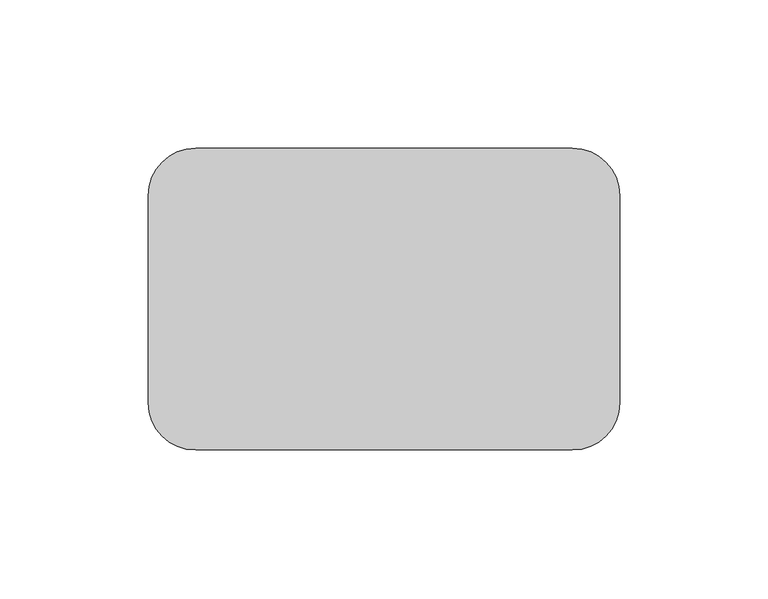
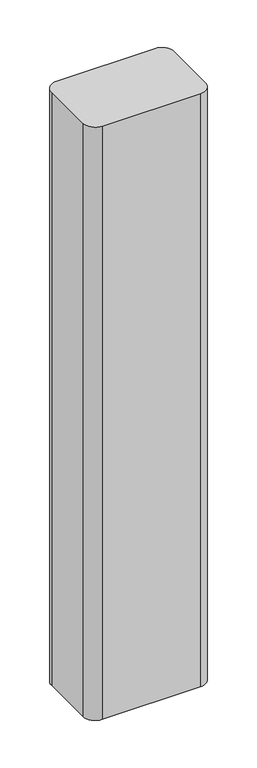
"""IFC4 building model written with IfcOpenShell, lengths in millimetres: proxy geometry, GROUTED CMU CELLS : GROUTED CMU CELLS."""

from ifc_helpers import new_model, si_unit, point, frame_2d, origin, origin_with_axes, place, context, project, spatial, polyline, circle_curve, trimmed, segment, composite_curve, outline, extrude, source, transform, mapped, element, save


def generic_models_057657a4(model_context):
    return source(origin(), model_context, "Body", "SweptSolid", [
        extrude(outline(composite_curve([segment(trimmed(circle_curve(frame_2d((63.5, 34.925)), 15.875), [point((63.5, 50.8))], [point((79.375, 34.925))], False, "CARTESIAN"), True, "CONTINUOUS"), segment(polyline([(79.375, 34.925), (79.375, -34.925)]), True, "CONTINUOUS"), segment(trimmed(circle_curve(frame_2d((63.5, -34.925)), 15.875), [point((79.375, -34.925))], [point((63.5, -50.8))], False, "CARTESIAN"), True, "CONTINUOUS"), segment(polyline([(63.5, -50.8), (-63.5, -50.8)]), True, "CONTINUOUS"), segment(trimmed(circle_curve(frame_2d((-63.5, -34.925)), 15.875), [point((-63.5, -50.8))], [point((-79.375, -34.925))], False, "CARTESIAN"), True, "CONTINUOUS"), segment(polyline([(-79.375, -34.925), (-79.375, 34.925)]), True, "CONTINUOUS"), segment(trimmed(circle_curve(frame_2d((-63.5, 34.925)), 15.875), [point((-79.375, 34.925))], [point((-63.5, 50.8))], False, "CARTESIAN"), True, "CONTINUOUS"), segment(polyline([(-63.5, 50.8), (63.5, 50.8)]), True, "CONTINUOUS")], self_intersect=False)), origin_with_axes(), (0.0, 0.0, 1.0), 812.8),
    ])


if __name__ == "__main__":
    model = new_model("IFC4")
    model_context = context("Model", 3, world=origin())
    ifc_project = project(units=[si_unit("LENGTHUNIT", "METRE", prefix="MILLI")], contexts=[model_context])
    site = spatial("IfcSite", under=ifc_project)
    building = spatial("IfcBuilding", under=site)
    placement = place(None, origin())
    generic_models_shape = generic_models_057657a4(model_context)
    element("IfcBuildingElementProxy", 1, Name="GROUTED CMU CELLS : GROUTED CMU CELLS", ObjectType="GROUTED CMU CELLS : GROUTED CMU CELLS", at=placement, inside=building, context=model_context, shape_type="MappedRepresentation", body=[
        mapped(generic_models_shape, transform((0.0, 0.0, 0.0), x_axis=(1.0, 0.0, 0.0), y_axis=(0.0, 1.0, 0.0), z_axis=(0.0, 0.0, 1.0))),
    ])
    save(model, "model.ifc")
